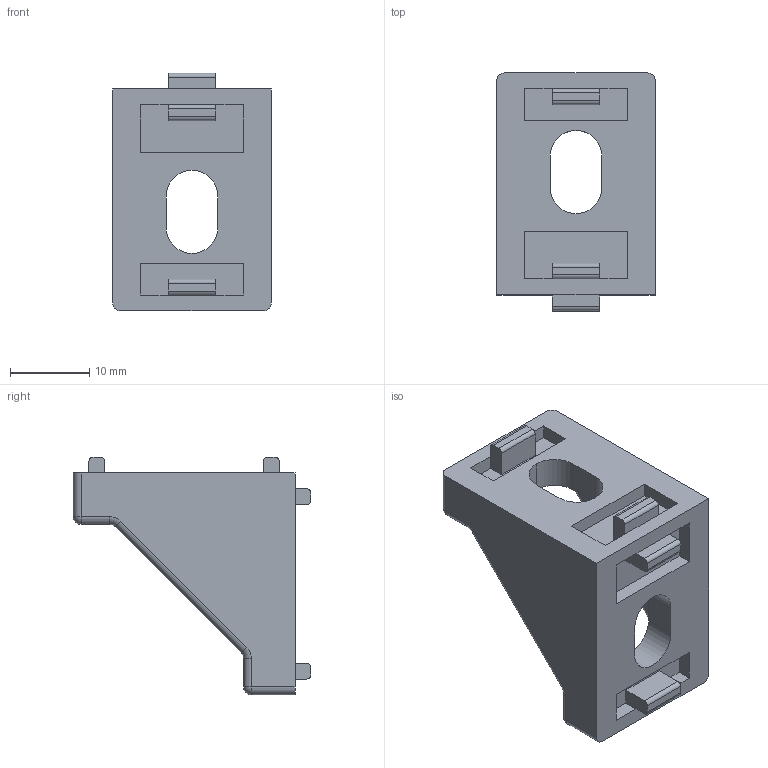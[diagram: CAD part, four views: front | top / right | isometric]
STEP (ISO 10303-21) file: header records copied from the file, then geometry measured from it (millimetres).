
FILE_DESCRIPTION (( 'STEP AP203' ), '1' );
FILE_NAME ('51－CE-RA2028-6.STEP', '2015-07-07T06:15:54', ( '' ), ( '' ), 'SwSTEP 2.0', 'SolidWorks 2013', '' );
FILE_SCHEMA (( 'CONFIG_CONTROL_DESIGN' ));
Length unit declared in the file: millimetre
Products named in the file (1): 51－CE-RA2028-6
Bounding box: 20 x 30 x 30 mm (x, y, z)
Volume: 4860.1 mm3; surface area: 3914.3 mm2
Topology: 1 solids, 1 shells, 122 faces, 308 edges, 184 vertices
Faces by surface type: plane 64, cylinder 42, torus 8, sphere 8
Entity records: 3637 total; most frequent: DIRECTION 638, CARTESIAN_POINT 607, ORIENTED_EDGE 600, EDGE_CURVE 300, AXIS2_PLACEMENT_3D 215, LINE 208, VECTOR 208, VERTEX_POINT 184
